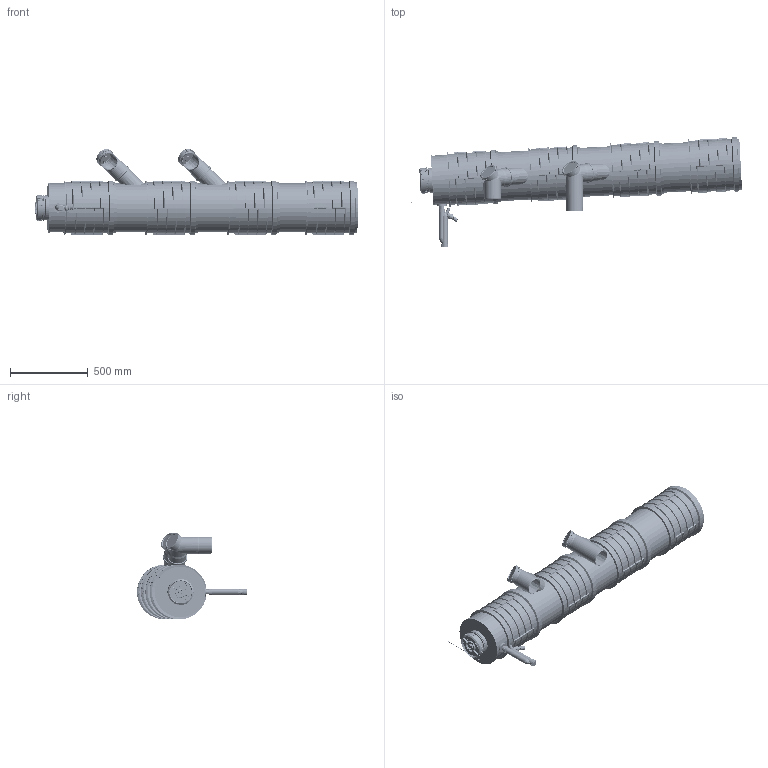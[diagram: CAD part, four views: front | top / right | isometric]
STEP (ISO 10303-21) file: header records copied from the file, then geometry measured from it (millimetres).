
FILE_DESCRIPTION((''),'2;1');
FILE_NAME('20-5500001947_ASM','2022-02-18T11:28:34',('ctgas'),('Centrotherm'),'CREO PARAMETRIC BY PTC INC, 2020281','CREO PARAMETRIC BY PTC INC, 2020281','');
FILE_SCHEMA(('AP242_MANAGED_MODEL_BASED_3D_ENGINEERING_MIM_LF { 1 0 10303 442 1 1 4 }'));
Products named in the file (32): 1100000052_AF0; 20-1100000057; 20-1100009063_AF0; 20-1100009064_ASM; 20-1100009049_ASM; 20-1100000185_EINGEB; 20-1100009050_ASM; 1100000049; 20-1100001791_ASM; 20-0001274560; 20-0001700023; 20-1100003805_GERADE; 20-1100002725_ASM; 20-1100003806; 20-1100002691; 20-1100003809_ASM; 45110002; 20-1100002921_ASM; 45600054; 45600015; 80600024_ASM; 1100000051; 20-1100001797_ASM; 20-1100000070_ASM; 20-1100000544; 20-0002073000; 20-0034033000; 20-0034013010; 20-1100002663_ASM; 20-1100000543; 20-1100002662_ASM; 20-5500001947_ASM
Assembly tree (39 placements, depth 5):
  20-5500001947_ASM
    20-1100009050_ASM  x2
      20-1100009049_ASM
        1100000052_AF0
        20-1100000057
        20-1100009064_ASM
          20-1100009063_AF0
      20-1100000185_EINGEB
    20-1100002921_ASM
      20-1100002725_ASM
        20-1100001791_ASM
          20-1100000057
          1100000049
        20-0001274560
        20-0001700023
        20-1100003805_GERADE
      20-1100000185_EINGEB
      20-1100003809_ASM
        20-1100003806
        20-1100002691
      45110002
    80600024_ASM
      45600054
      45600015
    20-1100000070_ASM
      20-1100001797_ASM
        20-1100000057
        1100000051
      20-1100000185_EINGEB
    20-1100002663_ASM
      20-1100000544
      20-0002073000
      20-0034033000
      20-0034013010
    20-1100002662_ASM
      20-1100000543
      20-0002073000
      20-0034033000
      20-0034013010
Bounding box: 2130.62 x 706.44 x 555.65 mm (x, y, z)
Volume: 19761594.2 mm3; surface area: 7946948.5 mm2
Topology: 38 solids, 58 shells, 11922 faces, 32355 edges, 20980 vertices
Faces by surface type: plane 8880, cylinder 1223, cone 630, bspline 568, torus 344, sphere 172, extrusion 105
Entity records: 398909 total; most frequent: CARTESIAN_POINT 94898, ORIENTED_EDGE 49812, DIRECTION 42975, PRESENTATION_STYLE_ASSIGNMENT 24974, STYLED_ITEM 24974, CURVE_STYLE 24938, EDGE_CURVE 24938, VECTOR 18903
